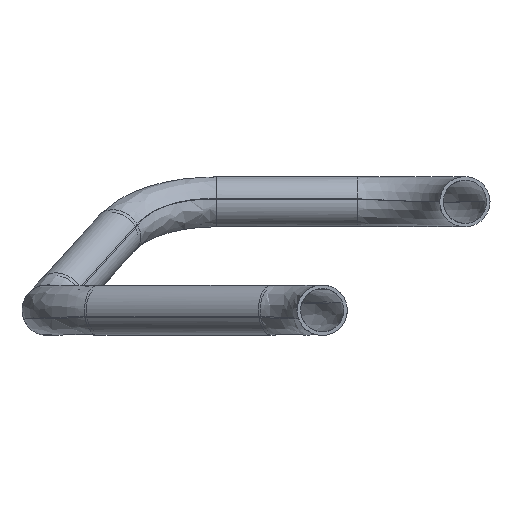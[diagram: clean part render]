
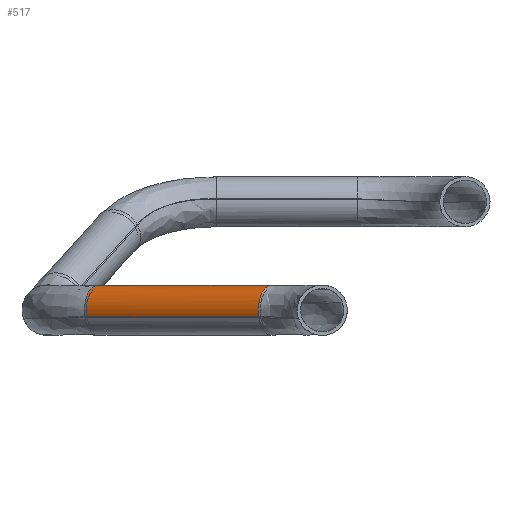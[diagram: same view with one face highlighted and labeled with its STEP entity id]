
A CAD part, left-side view. The second image highlights one B-rep face of the part: STEP entity #517.
In plain terms, the highlighted cylindrical face has radius 11 mm (diameter 22 mm), a partial arc.
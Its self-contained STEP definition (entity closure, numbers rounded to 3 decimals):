
#490=AXIS2_PLACEMENT_3D('Cylinder Axis2P3D',#487,#488,#489) ;
#494=AXIS2_PLACEMENT_3D('Circle Axis2P3D',#492,#493,$) ;
#448=CARTESIAN_POINT('Control Point',(-172.723,1036.392,319.274)) ;
#449=CARTESIAN_POINT('Control Point',(-175.462,1038.097,329.79)) ;
#450=CARTESIAN_POINT('Control Point',(-167.904,1033.393,338.274)) ;
#451=CARTESIAN_POINT('Control Point',(-157.606,1026.983,336.242)) ;
#452=CARTESIAN_POINT('Control Point',(-154.867,1025.279,325.726)) ;
#453=CARTESIAN_POINT('Vertex',(-172.723,1036.392,319.274)) ;
#455=CARTESIAN_POINT('Vertex',(-154.867,1025.279,325.726)) ;
#487=CARTESIAN_POINT('Axis2P3D Location',(-187.5,992.75,322.5)) ;
#492=CARTESIAN_POINT('Axis2P3D Location',(-211.205,954.665,322.5)) ;
#496=CARTESIAN_POINT('Vertex',(-220.133,960.221,319.274)) ;
#498=CARTESIAN_POINT('Vertex',(-202.277,949.108,325.726)) ;
#501=CARTESIAN_POINT('Line Origine',(-178.572,987.193,325.726)) ;
#506=CARTESIAN_POINT('Line Origine',(-196.428,998.307,319.274)) ;
#488=DIRECTION('Axis2P3D Direction',(0.528,0.849,0.)) ;
#489=DIRECTION('Axis2P3D XDirection',(-0.812,0.505,-0.293)) ;
#493=DIRECTION('Axis2P3D Direction',(0.528,0.849,0.)) ;
#502=DIRECTION('Vector Direction',(0.528,0.849,0.)) ;
#507=DIRECTION('Vector Direction',(0.528,0.849,0.)) ;
#503=VECTOR('Line Direction',#502,1.) ;
#508=VECTOR('Line Direction',#507,1.) ;
#512=ORIENTED_EDGE('',*,*,#500,.T.) ;
#513=ORIENTED_EDGE('',*,*,#505,.F.) ;
#514=ORIENTED_EDGE('',*,*,#457,.F.) ;
#515=ORIENTED_EDGE('',*,*,#510,.T.) ;
#517=ADVANCED_FACE('( + ) PartBody',(#516),#491,.T.) ;
#495=CIRCLE('generated circle',#494,11.) ;
#491=CYLINDRICAL_SURFACE('generated cylinder',#490,11.) ;
#457=EDGE_CURVE('',#454,#456,#447,.T.) ;
#500=EDGE_CURVE('',#497,#499,#495,.T.) ;
#505=EDGE_CURVE('',#456,#499,#504,.F.) ;
#510=EDGE_CURVE('',#454,#497,#509,.F.) ;
#511=EDGE_LOOP('',(#512,#513,#514,#515)) ;
#516=FACE_OUTER_BOUND('',#511,.T.) ;
#504=LINE('Line',#501,#503) ;
#509=LINE('Line',#506,#508) ;
#454=VERTEX_POINT('',#453) ;
#456=VERTEX_POINT('',#455) ;
#497=VERTEX_POINT('',#496) ;
#499=VERTEX_POINT('',#498) ;
#447=(BOUNDED_CURVE()B_SPLINE_CURVE(4,(#448,#449,#450,#451,#452),.UNSPECIFIED.,.F.,.U.)B_SPLINE_CURVE_WITH_KNOTS((5,5),(-34.558,0.),.UNSPECIFIED.)CURVE()GEOMETRIC_REPRESENTATION_ITEM()RATIONAL_B_SPLINE_CURVE((1.,0.707,0.667,0.707,1.))REPRESENTATION_ITEM('')) ;
